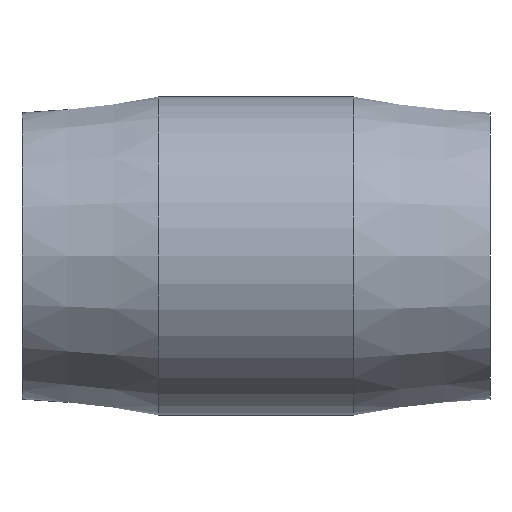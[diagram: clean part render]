
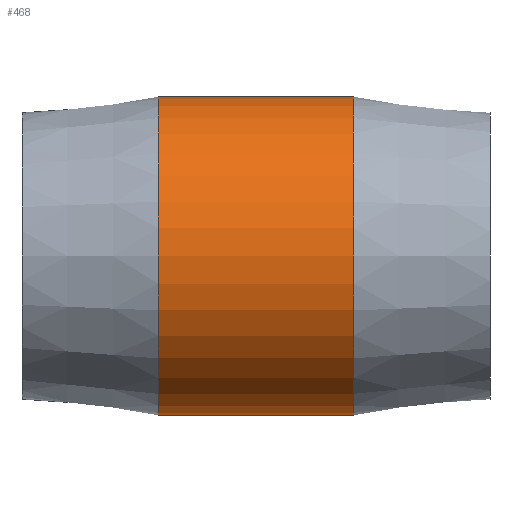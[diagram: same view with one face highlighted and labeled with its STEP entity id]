
A CAD part, front view. The second image highlights one B-rep face of the part: STEP entity #468.
In plain terms, the highlighted cylindrical face has radius 34.036 mm (diameter 68.072 mm), a full revolution.
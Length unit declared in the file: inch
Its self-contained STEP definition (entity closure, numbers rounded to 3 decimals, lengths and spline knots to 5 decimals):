
#44=LINE('',#869,#61);
#61=VECTOR('',#639,1.34);
#76=CYLINDRICAL_SURFACE('',#528,1.34);
#94=FACE_OUTER_BOUND('',#127,.T.);
#127=EDGE_LOOP('',(#350,#351,#352,#353,#354,#355));
#163=CIRCLE('',#529,1.34);
#164=CIRCLE('',#530,1.34);
#165=CIRCLE('',#531,1.34);
#166=CIRCLE('',#532,1.34);
#212=VERTEX_POINT('',#864);
#213=VERTEX_POINT('',#865);
#214=VERTEX_POINT('',#868);
#215=VERTEX_POINT('',#870);
#267=EDGE_CURVE('',#212,#213,#163,.T.);
#268=EDGE_CURVE('',#213,#212,#164,.T.);
#269=EDGE_CURVE('',#213,#214,#44,.T.);
#270=EDGE_CURVE('',#214,#215,#165,.T.);
#271=EDGE_CURVE('',#215,#214,#166,.T.);
#350=ORIENTED_EDGE('',*,*,#267,.F.);
#351=ORIENTED_EDGE('',*,*,#268,.F.);
#352=ORIENTED_EDGE('',*,*,#269,.T.);
#353=ORIENTED_EDGE('',*,*,#270,.T.);
#354=ORIENTED_EDGE('',*,*,#271,.T.);
#355=ORIENTED_EDGE('',*,*,#269,.F.);
#468=ADVANCED_FACE('',(#94),#76,.T.);
#528=AXIS2_PLACEMENT_3D('',#863,#633,#634);
#529=AXIS2_PLACEMENT_3D('',#866,#635,#636);
#530=AXIS2_PLACEMENT_3D('',#867,#637,#638);
#531=AXIS2_PLACEMENT_3D('',#871,#640,#641);
#532=AXIS2_PLACEMENT_3D('',#872,#642,#643);
#633=DIRECTION('center_axis',(1.,0.,0.));
#634=DIRECTION('ref_axis',(0.,1.,0.));
#635=DIRECTION('center_axis',(1.,0.,0.));
#636=DIRECTION('ref_axis',(0.,0.,-1.));
#637=DIRECTION('center_axis',(1.,0.,0.));
#638=DIRECTION('ref_axis',(0.,0.,-1.));
#639=DIRECTION('',(-1.,0.,0.));
#640=DIRECTION('center_axis',(1.,0.,0.));
#641=DIRECTION('ref_axis',(0.,0.,-1.));
#642=DIRECTION('center_axis',(1.,0.,0.));
#643=DIRECTION('ref_axis',(0.,0.,-1.));
#863=CARTESIAN_POINT('Origin',(0.40588,0.,0.));
#864=CARTESIAN_POINT('',(0.824,1.34,0.));
#865=CARTESIAN_POINT('',(0.824,-1.34,0.));
#866=CARTESIAN_POINT('Origin',(0.824,0.,0.));
#867=CARTESIAN_POINT('Origin',(0.824,0.,0.));
#868=CARTESIAN_POINT('',(-0.824,-1.34,0.));
#869=CARTESIAN_POINT('',(0.40588,-1.34,0.));
#870=CARTESIAN_POINT('',(-0.824,1.34,0.));
#871=CARTESIAN_POINT('Origin',(-0.824,0.,0.));
#872=CARTESIAN_POINT('Origin',(-0.824,0.,0.));
